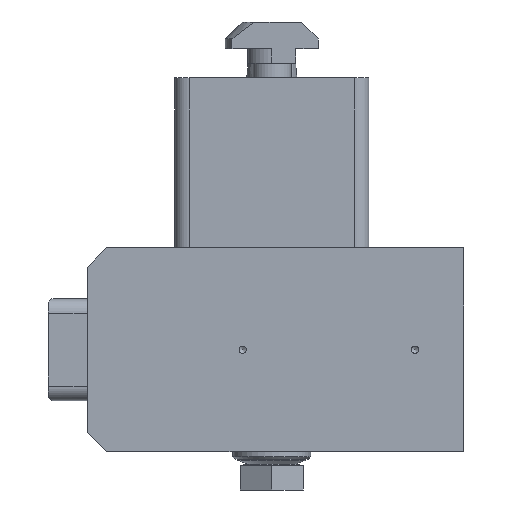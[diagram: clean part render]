
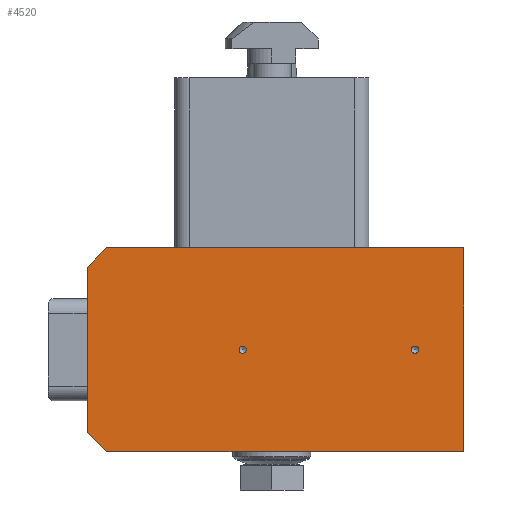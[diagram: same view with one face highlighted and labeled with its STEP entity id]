
A CAD part, left-side view. The second image highlights one B-rep face of the part: STEP entity #4520.
In plain terms, the highlighted planar face has unit normal (-1, 0, 0).
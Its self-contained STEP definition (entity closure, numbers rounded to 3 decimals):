
#17 = LINE ( 'NONE', #5657, #6621 ) ;
#148 = EDGE_CURVE ( 'NONE', #8660, #1027, #14980, .T. ) ;
#171 = VECTOR ( 'NONE', #4174, 1000. ) ;
#288 = VECTOR ( 'NONE', #4911, 1000. ) ;
#328 = LINE ( 'NONE', #14821, #2993 ) ;
#1027 = VERTEX_POINT ( 'NONE', #13360 ) ;
#1124 = DIRECTION ( 'NONE',  ( 0., 0., 1. ) ) ;
#1678 = ORIENTED_EDGE ( 'NONE', *, *, #14752, .F. ) ;
#1767 = CIRCLE ( 'NONE', #9712, 0.75 ) ;
#1965 = CIRCLE ( 'NONE', #9121, 0.75 ) ;
#2109 = EDGE_LOOP ( 'NONE', ( #12128, #9380, #7836, #7350, #1678, #15276 ) ) ;
#2475 = CARTESIAN_POINT ( 'NONE',  ( -10., 38., -17. ) ) ;
#2606 = DIRECTION ( 'NONE',  ( -1., 0., 0. ) ) ;
#2701 = VERTEX_POINT ( 'NONE', #17799 ) ;
#2993 = VECTOR ( 'NONE', #4841, 1000. ) ;
#3900 = LINE ( 'NONE', #4009, #13747 ) ;
#3918 = VERTEX_POINT ( 'NONE', #17233 ) ;
#4009 = CARTESIAN_POINT ( 'NONE',  ( -10., -39.5, 21. ) ) ;
#4174 = DIRECTION ( 'NONE',  ( 0., -1., 0. ) ) ;
#4382 = AXIS2_PLACEMENT_3D ( 'NONE', #14282, #13263, #13200 ) ;
#4520 = ADVANCED_FACE ( 'NONE', ( #17764, #17369, #15129 ), #14345, .F. ) ;
#4841 = DIRECTION ( 'NONE',  ( 0., 0.707, -0.707 ) ) ;
#4911 = DIRECTION ( 'NONE',  ( 0., -0.707, -0.707 ) ) ;
#5657 = CARTESIAN_POINT ( 'NONE',  ( -10., -39.5, 21. ) ) ;
#5859 = VERTEX_POINT ( 'NONE', #14686 ) ;
#6160 = CARTESIAN_POINT ( 'NONE',  ( -10., 38., 21. ) ) ;
#6533 = EDGE_LOOP ( 'NONE', ( #13008 ) ) ;
#6621 = VECTOR ( 'NONE', #17103, 1000. ) ;
#6650 = EDGE_CURVE ( 'NONE', #11433, #11433, #1767, .T. ) ;
#7350 = ORIENTED_EDGE ( 'NONE', *, *, #13088, .F. ) ;
#7587 = DIRECTION ( 'NONE',  ( 0., 0., -1. ) ) ;
#7836 = ORIENTED_EDGE ( 'NONE', *, *, #12151, .T. ) ;
#8660 = VERTEX_POINT ( 'NONE', #10988 ) ;
#8820 = CARTESIAN_POINT ( 'NONE',  ( -10., 6., 0.75 ) ) ;
#8963 = CARTESIAN_POINT ( 'NONE',  ( -10., 34., 21. ) ) ;
#9121 = AXIS2_PLACEMENT_3D ( 'NONE', #18142, #9561, #1124 ) ;
#9133 = EDGE_CURVE ( 'NONE', #11834, #12287, #328, .T. ) ;
#9380 = ORIENTED_EDGE ( 'NONE', *, *, #148, .T. ) ;
#9561 = DIRECTION ( 'NONE',  ( -1., 0., 0. ) ) ;
#9712 = AXIS2_PLACEMENT_3D ( 'NONE', #11075, #2606, #12510 ) ;
#10988 = CARTESIAN_POINT ( 'NONE',  ( -10., 38., -17. ) ) ;
#11075 = CARTESIAN_POINT ( 'NONE',  ( -10., 6., 0. ) ) ;
#11433 = VERTEX_POINT ( 'NONE', #8820 ) ;
#11534 = VECTOR ( 'NONE', #7587, 1000. ) ;
#11834 = VERTEX_POINT ( 'NONE', #8963 ) ;
#12128 = ORIENTED_EDGE ( 'NONE', *, *, #14425, .T. ) ;
#12151 = EDGE_CURVE ( 'NONE', #1027, #3918, #17729, .T. ) ;
#12287 = VERTEX_POINT ( 'NONE', #17479 ) ;
#12311 = ORIENTED_EDGE ( 'NONE', *, *, #6650, .F. ) ;
#12510 = DIRECTION ( 'NONE',  ( 0., 0., 1. ) ) ;
#12683 = CARTESIAN_POINT ( 'NONE',  ( -10., -39.5, -21. ) ) ;
#13002 = EDGE_CURVE ( 'NONE', #5859, #5859, #1965, .T. ) ;
#13008 = ORIENTED_EDGE ( 'NONE', *, *, #13002, .F. ) ;
#13088 = EDGE_CURVE ( 'NONE', #2701, #3918, #3900, .T. ) ;
#13200 = DIRECTION ( 'NONE',  ( 0., 0., -1. ) ) ;
#13263 = DIRECTION ( 'NONE',  ( 1., 0., 0. ) ) ;
#13360 = CARTESIAN_POINT ( 'NONE',  ( -10., 34., -21. ) ) ;
#13495 = EDGE_LOOP ( 'NONE', ( #12311 ) ) ;
#13747 = VECTOR ( 'NONE', #15420, 1000. ) ;
#14282 = CARTESIAN_POINT ( 'NONE',  ( -10., -39.5, 21. ) ) ;
#14345 = PLANE ( 'NONE',  #4382 ) ;
#14425 = EDGE_CURVE ( 'NONE', #12287, #8660, #15378, .T. ) ;
#14686 = CARTESIAN_POINT ( 'NONE',  ( -10., -29.5, 0.75 ) ) ;
#14752 = EDGE_CURVE ( 'NONE', #11834, #2701, #17, .T. ) ;
#14821 = CARTESIAN_POINT ( 'NONE',  ( -10., 34., 21. ) ) ;
#14980 = LINE ( 'NONE', #2475, #288 ) ;
#15129 = FACE_OUTER_BOUND ( 'NONE', #2109, .T. ) ;
#15276 = ORIENTED_EDGE ( 'NONE', *, *, #9133, .T. ) ;
#15378 = LINE ( 'NONE', #6160, #11534 ) ;
#15420 = DIRECTION ( 'NONE',  ( 0., 0., -1. ) ) ;
#17103 = DIRECTION ( 'NONE',  ( 0., -1., 0. ) ) ;
#17233 = CARTESIAN_POINT ( 'NONE',  ( -10., -39.5, -21. ) ) ;
#17369 = FACE_BOUND ( 'NONE', #6533, .T. ) ;
#17479 = CARTESIAN_POINT ( 'NONE',  ( -10., 38., 17. ) ) ;
#17729 = LINE ( 'NONE', #12683, #171 ) ;
#17764 = FACE_BOUND ( 'NONE', #13495, .T. ) ;
#17799 = CARTESIAN_POINT ( 'NONE',  ( -10., -39.5, 21. ) ) ;
#18142 = CARTESIAN_POINT ( 'NONE',  ( -10., -29.5, 0. ) ) ;
